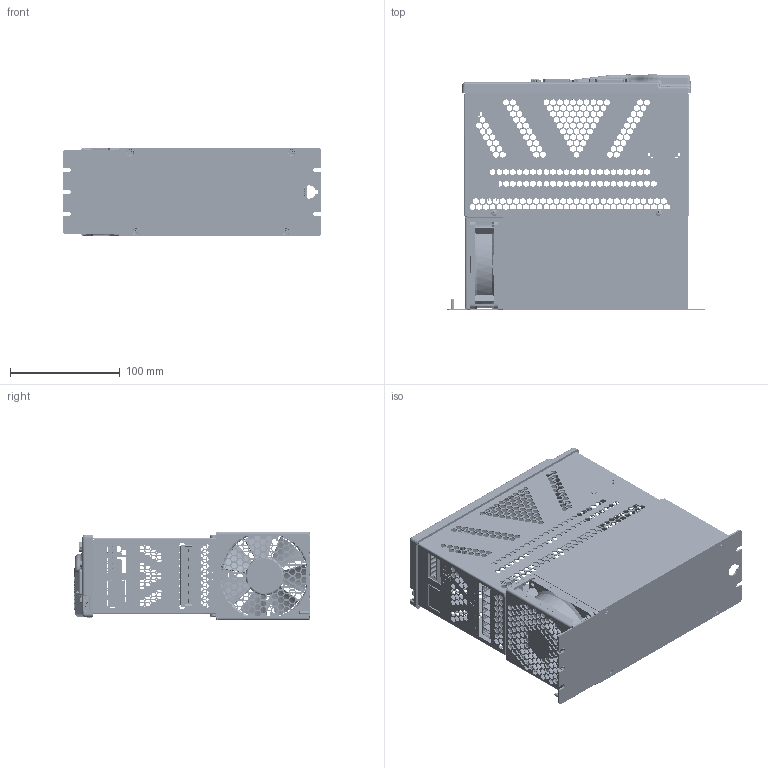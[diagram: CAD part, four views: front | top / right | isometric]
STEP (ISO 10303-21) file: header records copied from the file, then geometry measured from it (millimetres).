
FILE_DESCRIPTION(/* description */ (''),/* implementation_level */ '2;1');
FILE_NAME(/* name */ 'MD082209.0.0.stp',/* time_stamp */ '2025-01-20T09:14:48+01:00',/* author */ (''),/* organization */ (''),/* preprocessor_version */ 'ST-DEVELOPER v19.4',/* originating_system */ 'SIEMENS PLM Software NX2212.7001',/* authorisation */ '');
FILE_SCHEMA (('AUTOMOTIVE_DESIGN { 1 0 10303 214 3 1 1 1 }'));
Products named in the file (1): MD082209.0.0
Bounding box: 235 x 215.3 x 80 mm (x, y, z)
Volume: 731448.7 mm3; surface area: 767452.6 mm2
Topology: 263 solids, 263 shells, 14278 faces, 39150 edges, 25774 vertices
Faces by surface type: plane 10612, cylinder 2234, bspline 576, extrusion 428, cone 233, torus 178, sphere 17
Full cylindrical faces by diameter (mm): 0.007 x8, 0.457 x1, 0.6 x76, 0.8 x2, 0.9 x18, 1 x69, 1.2 x82, 1.3 x21, 1.5 x52, 1.8 x1, 2.261 x6, 2.5 x16, 2.733 x4, 2.8 x10, 2.84 x4, 2.9 x4, 3 x5, 3.05 x2, 3.2 x6, 3.3 x22, 3.5 x2, 4 x6, 4.3 x8, 5.3 x4, 5.5 x4, 5.6 x4, 6 x2, 6.999 x2, 8.1 x1, 8.5 x1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
Entity records: 560104 total; most frequent: CARTESIAN_POINT 142887, ORIENTED_EDGE 76838, DIRECTION 65770, EDGE_CURVE 38419, VECTOR 30452, LINE 30024, VERTEX_POINT 25711, AXIS2_PLACEMENT_3D 17659
